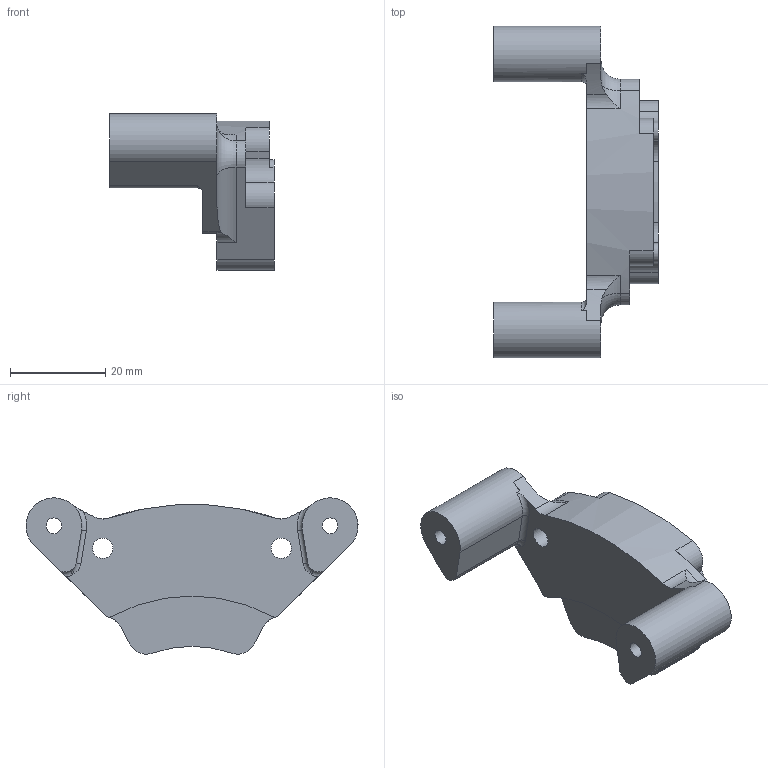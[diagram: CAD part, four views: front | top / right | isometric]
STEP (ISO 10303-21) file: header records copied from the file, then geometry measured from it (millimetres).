
FILE_DESCRIPTION(/* description */ ('STEP AP242 Edition 2','CAx-IF Rec.Pracs.---Representation and Presentation of Product Manufacturing Information (PMI)---4.0---2014-10-13','CAx-IF Rec.Pracs.---3D Tessellated Geometry---0.4---2014-09-14','2;1','CAx-IF Rec.Pracs.---User Defined Attributes---1.5---2016-08-15'),/* implementation_level */ '2;1');
FILE_NAME(/* name */ 'Assy_ForMFG - KD-C-103X_PitchHardstop (1)',/* time_stamp */ '2026-05-15T19:56:29Z',/* author */ (''),/* organization */ (''),/* preprocessor_version */ 'ST-DEVELOPER v20',/* originating_system */ 'ONSHAPE BY PTC INC, 1.215',/* authorisation */ ' ');
FILE_SCHEMA (('AP242_MANAGED_MODEL_BASED_3D_ENGINEERING_MIM_LF { 1 0 10303 442 3 1 4 }'));
Length unit declared in the file: metre
Products named in the file (1): KD-C-103X_PitchHardstop
Bounding box: 34.5 x 69.73 x 32.83 mm (x, y, z)
Volume: 17142.2 mm3; surface area: 7978.1 mm2
Topology: 1 solids, 1 shells, 84 faces, 235 edges, 153 vertices
Faces by surface type: cylinder 49, plane 25, torus 10
Full cylindrical faces by diameter (mm): 3.3 x2, 4.3 x2
Entity records: 2782 total; most frequent: CARTESIAN_POINT 513, DIRECTION 508, ORIENTED_EDGE 460, EDGE_CURVE 230, AXIS2_PLACEMENT_3D 205, VERTEX_POINT 152, CIRCLE 116, LINE 98
